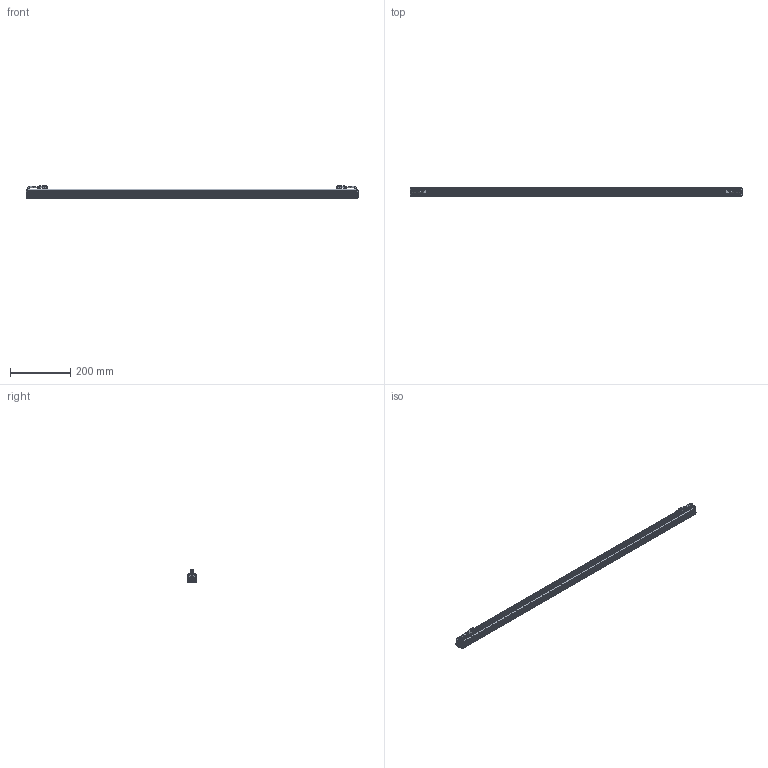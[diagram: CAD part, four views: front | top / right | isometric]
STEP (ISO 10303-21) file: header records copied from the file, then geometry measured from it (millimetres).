
FILE_DESCRIPTION((''),'2;1');
FILE_NAME('MV-LLDS-H-1200-30-W-PL_ASM','2024-04-08T14:38:17',('huguozhe'),(''),'CREO PARAMETRIC BY PTC INC, 2020044','CREO PARAMETRIC BY PTC INC, 2020044','');
FILE_SCHEMA(('AUTOMOTIVE_DESIGN { 1 0 10303 214 1 1 1 1 }'));
Length unit declared in the file: millimetre
Products named in the file (15): DE-15-001276; DE-15-001275_ASM; DE-15-000532; DE-15-000531_ASM; DE-12-002271; TIP-M3X4-4_5X5-SO-ET-07061033; DE-12-002271_ASM; DE-12-001584; SC-KM2X6-BNI-GB819; XIANLAN_HEAD; CABLE_HEAD; CABLE_HEAD_ASM_ASM; 190100852; SC-PM2X6B-JMP; MV-LLDS-H-1200-30-W-PL_ASM
Assembly tree (37 placements, depth 3):
  MV-LLDS-H-1200-30-W-PL_ASM
    DE-15-001275_ASM
      DE-15-001276
    DE-15-000531_ASM
      DE-15-000532
    DE-12-002271_ASM  x2
      DE-12-002271
      TIP-M3X4-4_5X5-SO-ET-07061033
    DE-12-001584
    SC-KM2X6-BNI-GB819  x7
    CABLE_HEAD_ASM_ASM  x2
      XIANLAN_HEAD
      CABLE_HEAD
    190100852  x8
    SC-PM2X6B-JMP  x8
Bounding box: 1098 x 30 x 42.65 mm (x, y, z)
Volume: 757860.9 mm3; surface area: 400061.9 mm2
Topology: 36 solids, 78 shells, 3197 faces, 8197 edges, 5148 vertices
Faces by surface type: plane 1560, cylinder 722, bspline 480, cone 351, torus 66, sphere 16, extrusion 2
Entity records: 49746 total; most frequent: CARTESIAN_POINT 11743, ORIENTED_EDGE 6398, DIRECTION 6162, EDGE_CURVE 3237, VERTEX_POINT 2073, AXIS2_PLACEMENT_3D 2072, VECTOR 2018, LINE 2017
